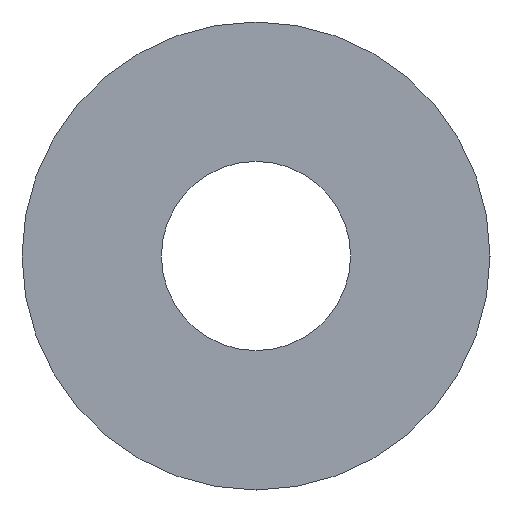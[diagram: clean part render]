
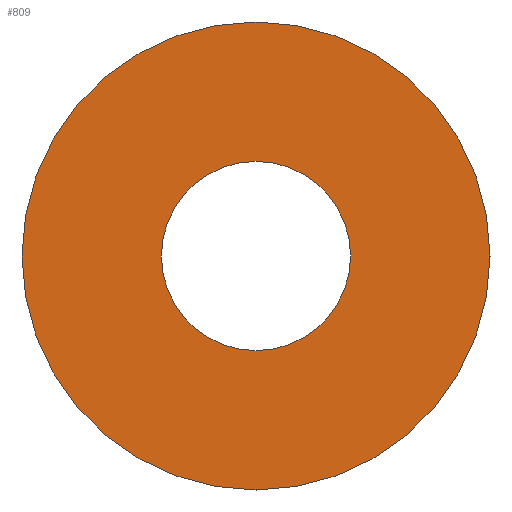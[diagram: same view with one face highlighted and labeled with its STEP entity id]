
A CAD part, front view. The second image highlights one B-rep face of the part: STEP entity #809.
In plain terms, the highlighted planar face has unit normal (0, -1, 0).
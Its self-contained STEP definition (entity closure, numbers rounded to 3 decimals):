
#3 = CIRCLE ( 'NONE', #1583, 23.5 ) ;
#59 = CARTESIAN_POINT ( 'NONE',  ( 0., -14., 0. ) ) ;
#149 = DIRECTION ( 'NONE',  ( 0., -1., 0. ) ) ;
#177 = EDGE_LOOP ( 'NONE', ( #2158, #669 ) ) ;
#205 = DIRECTION ( 'NONE',  ( 0., 1., 0. ) ) ;
#211 = DIRECTION ( 'NONE',  ( 0., 0., 1. ) ) ;
#543 = AXIS2_PLACEMENT_3D ( 'NONE', #1670, #1681, #905 ) ;
#598 = CARTESIAN_POINT ( 'NONE',  ( 0., -14., 23.5 ) ) ;
#600 = EDGE_CURVE ( 'NONE', #782, #1632, #3, .T. ) ;
#669 = ORIENTED_EDGE ( 'NONE', *, *, #600, .T. ) ;
#719 = DIRECTION ( 'NONE',  ( 0., 0., -1. ) ) ;
#782 = VERTEX_POINT ( 'NONE', #598 ) ;
#785 = ORIENTED_EDGE ( 'NONE', *, *, #2342, .F. ) ;
#794 = CIRCLE ( 'NONE', #543, 9.5 ) ;
#809 = ADVANCED_FACE ( 'NONE', ( #1435, #1158 ), #1762, .F. ) ;
#826 = CARTESIAN_POINT ( 'NONE',  ( 0., -14., 9.5 ) ) ;
#905 = DIRECTION ( 'NONE',  ( 0., 0., -1. ) ) ;
#920 = DIRECTION ( 'NONE',  ( 0., -1., 0. ) ) ;
#942 = EDGE_CURVE ( 'NONE', #1632, #782, #2301, .T. ) ;
#1131 = CARTESIAN_POINT ( 'NONE',  ( 0., -14., 0. ) ) ;
#1158 = FACE_OUTER_BOUND ( 'NONE', #177, .T. ) ;
#1290 = AXIS2_PLACEMENT_3D ( 'NONE', #59, #1387, #1774 ) ;
#1335 = CARTESIAN_POINT ( 'NONE',  ( 0., -14., 9.5 ) ) ;
#1387 = DIRECTION ( 'NONE',  ( 0., -1., 0. ) ) ;
#1435 = FACE_BOUND ( 'NONE', #2442, .T. ) ;
#1580 = CIRCLE ( 'NONE', #1876, 9.5 ) ;
#1583 = AXIS2_PLACEMENT_3D ( 'NONE', #1131, #920, #1901 ) ;
#1632 = VERTEX_POINT ( 'NONE', #2290 ) ;
#1670 = CARTESIAN_POINT ( 'NONE',  ( 0., -14., 0. ) ) ;
#1681 = DIRECTION ( 'NONE',  ( 0., -1., 0. ) ) ;
#1762 = PLANE ( 'NONE',  #2366 ) ;
#1774 = DIRECTION ( 'NONE',  ( 0., 0., -1. ) ) ;
#1876 = AXIS2_PLACEMENT_3D ( 'NONE', #2444, #149, #719 ) ;
#1901 = DIRECTION ( 'NONE',  ( 0., 0., -1. ) ) ;
#1902 = EDGE_CURVE ( 'NONE', #2314, #2193, #794, .T. ) ;
#1929 = ORIENTED_EDGE ( 'NONE', *, *, #1902, .F. ) ;
#2158 = ORIENTED_EDGE ( 'NONE', *, *, #942, .T. ) ;
#2193 = VERTEX_POINT ( 'NONE', #826 ) ;
#2270 = CARTESIAN_POINT ( 'NONE',  ( 0., -14., -9.5 ) ) ;
#2290 = CARTESIAN_POINT ( 'NONE',  ( 0., -14., -23.5 ) ) ;
#2301 = CIRCLE ( 'NONE', #1290, 23.5 ) ;
#2314 = VERTEX_POINT ( 'NONE', #2270 ) ;
#2342 = EDGE_CURVE ( 'NONE', #2193, #2314, #1580, .T. ) ;
#2366 = AXIS2_PLACEMENT_3D ( 'NONE', #1335, #205, #211 ) ;
#2442 = EDGE_LOOP ( 'NONE', ( #1929, #785 ) ) ;
#2444 = CARTESIAN_POINT ( 'NONE',  ( 0., -14., 0. ) ) ;
